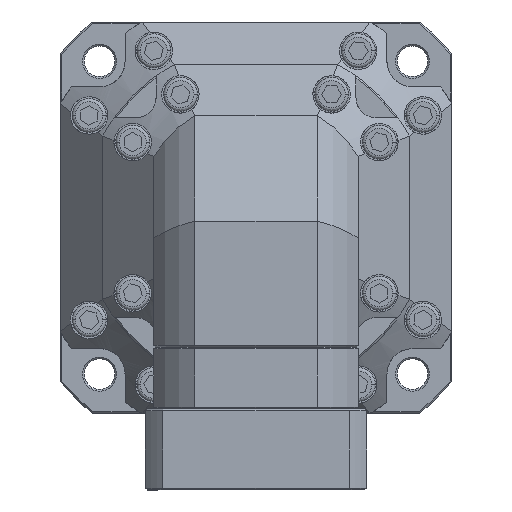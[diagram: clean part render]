
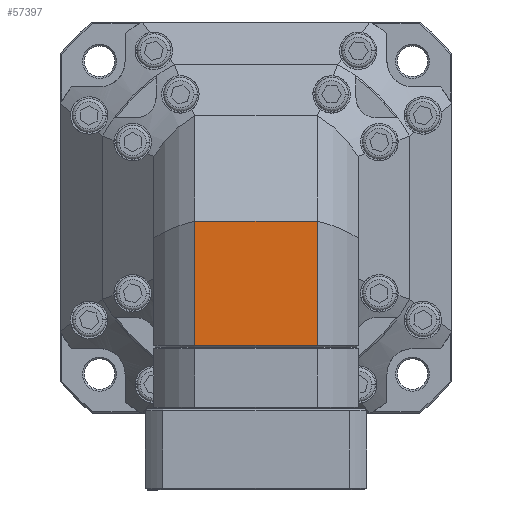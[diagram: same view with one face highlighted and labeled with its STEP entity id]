
A CAD part, front view. The second image highlights one B-rep face of the part: STEP entity #57397.
In plain terms, the highlighted planar face has unit normal (0, 1, 0).
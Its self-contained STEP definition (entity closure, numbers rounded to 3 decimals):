
#4815 = PLANE ( 'NONE',  #20918 ) ;
#5521 = EDGE_CURVE ( 'NONE', #53597, #11304, #58258, .T. ) ;
#11304 = VERTEX_POINT ( 'NONE', #95585 ) ;
#15179 = ORIENTED_EDGE ( 'NONE', *, *, #36967, .T. ) ;
#15425 = LINE ( 'NONE', #92589, #80530 ) ;
#15558 = DIRECTION ( 'NONE',  ( 0., -1., 0. ) ) ;
#20918 = AXIS2_PLACEMENT_3D ( 'NONE', #66453, #15558, #75006 ) ;
#29525 = LINE ( 'NONE', #74064, #94696 ) ;
#31700 = DIRECTION ( 'NONE',  ( 1., 0., 0. ) ) ;
#32796 = DIRECTION ( 'NONE',  ( 0., 0., 1. ) ) ;
#33982 = VECTOR ( 'NONE', #53885, 1000. ) ;
#35218 = FACE_OUTER_BOUND ( 'NONE', #41103, .T. ) ;
#36967 = EDGE_CURVE ( 'NONE', #11304, #91808, #29525, .T. ) ;
#41103 = EDGE_LOOP ( 'NONE', ( #85198, #106878, #104867, #15179 ) ) ;
#41724 = DIRECTION ( 'NONE',  ( 1., 0., 0. ) ) ;
#53597 = VERTEX_POINT ( 'NONE', #95454 ) ;
#53885 = DIRECTION ( 'NONE',  ( 0., 0., -1. ) ) ;
#55389 = CARTESIAN_POINT ( 'NONE',  ( 18.028, -173.611, -37.5 ) ) ;
#57397 = ADVANCED_FACE ( 'NONE', ( #35218 ), #4815, .F. ) ;
#58258 = LINE ( 'NONE', #75158, #80834 ) ;
#65185 = VERTEX_POINT ( 'NONE', #55389 ) ;
#66453 = CARTESIAN_POINT ( 'NONE',  ( -18.028, -173.611, -37.5 ) ) ;
#67418 = EDGE_CURVE ( 'NONE', #91808, #65185, #104447, .T. ) ;
#74064 = CARTESIAN_POINT ( 'NONE',  ( 0., -173.611, -1. ) ) ;
#75006 = DIRECTION ( 'NONE',  ( 1., 0., 0. ) ) ;
#75158 = CARTESIAN_POINT ( 'NONE',  ( -18.028, -173.611, -19.14 ) ) ;
#75685 = EDGE_CURVE ( 'NONE', #53597, #65185, #15425, .T. ) ;
#80530 = VECTOR ( 'NONE', #41724, 1000. ) ;
#80834 = VECTOR ( 'NONE', #32796, 1000. ) ;
#85198 = ORIENTED_EDGE ( 'NONE', *, *, #67418, .T. ) ;
#88434 = CARTESIAN_POINT ( 'NONE',  ( 18.028, -173.611, -19.14 ) ) ;
#91808 = VERTEX_POINT ( 'NONE', #101754 ) ;
#92589 = CARTESIAN_POINT ( 'NONE',  ( 0., -173.611, -37.5 ) ) ;
#94696 = VECTOR ( 'NONE', #31700, 1000. ) ;
#95454 = CARTESIAN_POINT ( 'NONE',  ( -18.028, -173.611, -37.5 ) ) ;
#95585 = CARTESIAN_POINT ( 'NONE',  ( -18.028, -173.611, -1. ) ) ;
#101754 = CARTESIAN_POINT ( 'NONE',  ( 18.028, -173.611, -1. ) ) ;
#104447 = LINE ( 'NONE', #88434, #33982 ) ;
#104867 = ORIENTED_EDGE ( 'NONE', *, *, #5521, .T. ) ;
#106878 = ORIENTED_EDGE ( 'NONE', *, *, #75685, .F. ) ;
